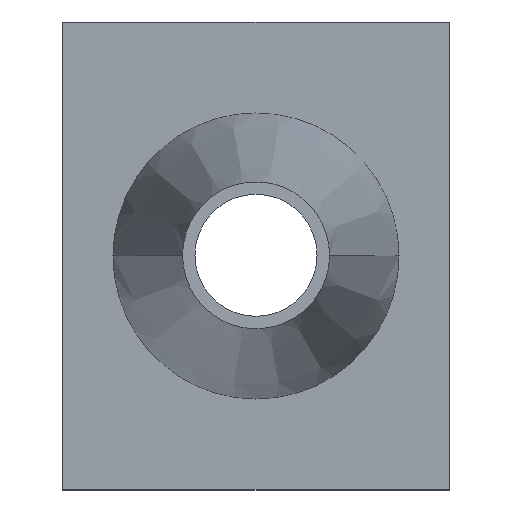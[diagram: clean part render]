
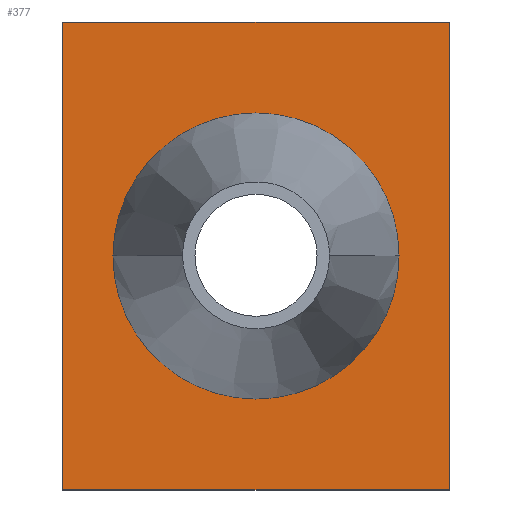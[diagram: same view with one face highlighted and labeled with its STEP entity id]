
A CAD part, top view. The second image highlights one B-rep face of the part: STEP entity #377.
In plain terms, the highlighted planar face has unit normal (0, 0, 1).
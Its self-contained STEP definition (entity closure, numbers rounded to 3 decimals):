
#167=CARTESIAN_POINT('Vertex',(0.,115.,3.)) ;
#174=CARTESIAN_POINT('Vertex',(0.,0.,3.)) ;
#177=CARTESIAN_POINT('Line Origine',(0.,57.5,3.)) ;
#198=CARTESIAN_POINT('Vertex',(95.,115.,3.)) ;
#201=CARTESIAN_POINT('Line Origine',(47.5,115.,3.)) ;
#222=CARTESIAN_POINT('Vertex',(95.,0.,3.)) ;
#225=CARTESIAN_POINT('Line Origine',(95.,57.5,3.)) ;
#242=CARTESIAN_POINT('Line Origine',(47.5,0.,3.)) ;
#324=CARTESIAN_POINT('Axis2P3D Location',(0.,0.,3.)) ;
#336=CARTESIAN_POINT('Control Point',(82.65,57.5,3.)) ;
#337=CARTESIAN_POINT('Control Point',(82.65,63.324,3.)) ;
#338=CARTESIAN_POINT('Control Point',(81.444,69.149,3.)) ;
#339=CARTESIAN_POINT('Control Point',(79.029,74.641,3.)) ;
#340=CARTESIAN_POINT('Control Point',(72.075,84.293,3.)) ;
#341=CARTESIAN_POINT('Control Point',(61.858,90.39,3.)) ;
#342=CARTESIAN_POINT('Control Point',(56.178,92.322,3.)) ;
#343=CARTESIAN_POINT('Control Point',(44.362,93.721,3.)) ;
#344=CARTESIAN_POINT('Control Point',(32.963,90.311,3.)) ;
#345=CARTESIAN_POINT('Control Point',(27.7,87.431,3.)) ;
#346=CARTESIAN_POINT('Control Point',(19.624,80.478,3.)) ;
#347=CARTESIAN_POINT('Control Point',(14.617,71.164,3.)) ;
#348=CARTESIAN_POINT('Control Point',(13.106,66.719,3.)) ;
#349=CARTESIAN_POINT('Control Point',(12.35,62.11,3.)) ;
#350=CARTESIAN_POINT('Control Point',(12.35,57.5,3.)) ;
#351=CARTESIAN_POINT('Vertex',(82.65,57.5,3.)) ;
#353=CARTESIAN_POINT('Vertex',(12.35,57.5,3.)) ;
#357=CARTESIAN_POINT('Control Point',(82.65,57.5,3.)) ;
#358=CARTESIAN_POINT('Control Point',(82.65,51.676,3.)) ;
#359=CARTESIAN_POINT('Control Point',(81.444,45.851,3.)) ;
#360=CARTESIAN_POINT('Control Point',(79.029,40.359,3.)) ;
#361=CARTESIAN_POINT('Control Point',(72.075,30.707,3.)) ;
#362=CARTESIAN_POINT('Control Point',(61.858,24.61,3.)) ;
#363=CARTESIAN_POINT('Control Point',(56.178,22.678,3.)) ;
#364=CARTESIAN_POINT('Control Point',(44.362,21.279,3.)) ;
#365=CARTESIAN_POINT('Control Point',(32.963,24.689,3.)) ;
#366=CARTESIAN_POINT('Control Point',(27.7,27.569,3.)) ;
#367=CARTESIAN_POINT('Control Point',(19.624,34.522,3.)) ;
#368=CARTESIAN_POINT('Control Point',(14.617,43.836,3.)) ;
#369=CARTESIAN_POINT('Control Point',(13.106,48.281,3.)) ;
#370=CARTESIAN_POINT('Control Point',(12.35,52.89,3.)) ;
#371=CARTESIAN_POINT('Control Point',(12.35,57.5,3.)) ;
#178=DIRECTION('Vector Direction',(0.,1.,0.)) ;
#202=DIRECTION('Vector Direction',(-1.,0.,0.)) ;
#226=DIRECTION('Vector Direction',(0.,1.,0.)) ;
#243=DIRECTION('Vector Direction',(1.,0.,0.)) ;
#325=DIRECTION('Axis2P3D Direction',(0.,0.,1.)) ;
#326=DIRECTION('Axis2P3D XDirection',(1.,0.,0.)) ;
#327=AXIS2_PLACEMENT_3D('Plane Axis2P3D',#324,#325,#326) ;
#330=ORIENTED_EDGE('',*,*,#181,.F.) ;
#331=ORIENTED_EDGE('',*,*,#246,.T.) ;
#332=ORIENTED_EDGE('',*,*,#229,.T.) ;
#333=ORIENTED_EDGE('',*,*,#205,.T.) ;
#374=ORIENTED_EDGE('',*,*,#355,.F.) ;
#375=ORIENTED_EDGE('',*,*,#372,.T.) ;
#376=FACE_BOUND('',#373,.T.) ;
#179=VECTOR('Line Direction',#178,1.) ;
#203=VECTOR('Line Direction',#202,1.) ;
#227=VECTOR('Line Direction',#226,1.) ;
#244=VECTOR('Line Direction',#243,1.) ;
#377=ADVANCED_FACE('PartBody',(#334,#376),#328,.T.) ;
#335=B_SPLINE_CURVE_WITH_KNOTS('',5,(#336,#337,#338,#339,#340,#341,#342,#343,#344,#345,#346,#347,#348,#349,#350),.UNSPECIFIED.,.F.,.U.,(6,3,3,3,6),(0.,31.663,63.331,94.999,120.058),.UNSPECIFIED.) ;
#356=B_SPLINE_CURVE_WITH_KNOTS('',5,(#357,#358,#359,#360,#361,#362,#363,#364,#365,#366,#367,#368,#369,#370,#371),.UNSPECIFIED.,.F.,.U.,(6,3,3,3,6),(0.,31.663,63.331,94.999,120.058),.UNSPECIFIED.) ;
#181=EDGE_CURVE('',#175,#168,#180,.T.) ;
#205=EDGE_CURVE('',#199,#168,#204,.T.) ;
#229=EDGE_CURVE('',#223,#199,#228,.T.) ;
#246=EDGE_CURVE('',#175,#223,#245,.T.) ;
#355=EDGE_CURVE('',#352,#354,#335,.T.) ;
#372=EDGE_CURVE('',#352,#354,#356,.T.) ;
#329=EDGE_LOOP('',(#330,#331,#332,#333)) ;
#373=EDGE_LOOP('',(#374,#375)) ;
#334=FACE_OUTER_BOUND('',#329,.T.) ;
#180=LINE('Line',#177,#179) ;
#204=LINE('Line',#201,#203) ;
#228=LINE('Line',#225,#227) ;
#245=LINE('Line',#242,#244) ;
#328=PLANE('',#327) ;
#168=VERTEX_POINT('',#167) ;
#175=VERTEX_POINT('',#174) ;
#199=VERTEX_POINT('',#198) ;
#223=VERTEX_POINT('',#222) ;
#352=VERTEX_POINT('',#351) ;
#354=VERTEX_POINT('',#353) ;
